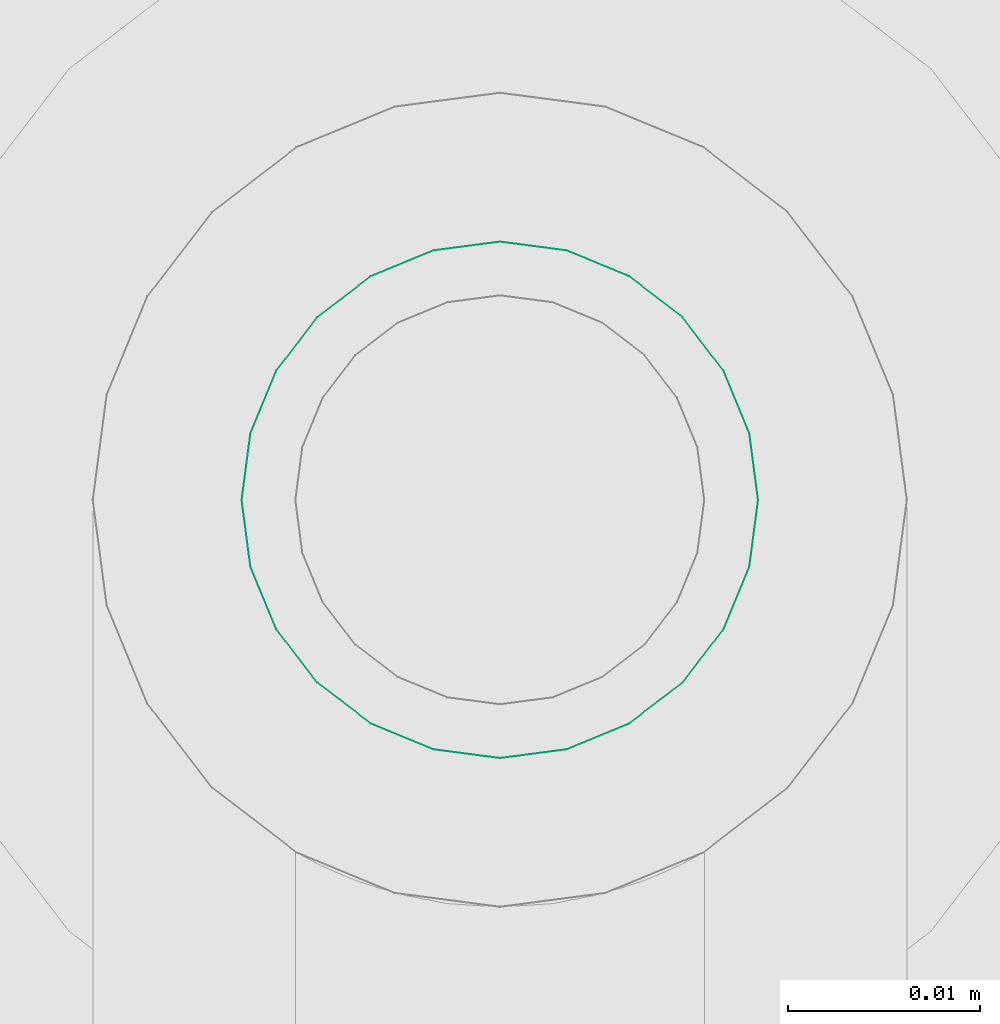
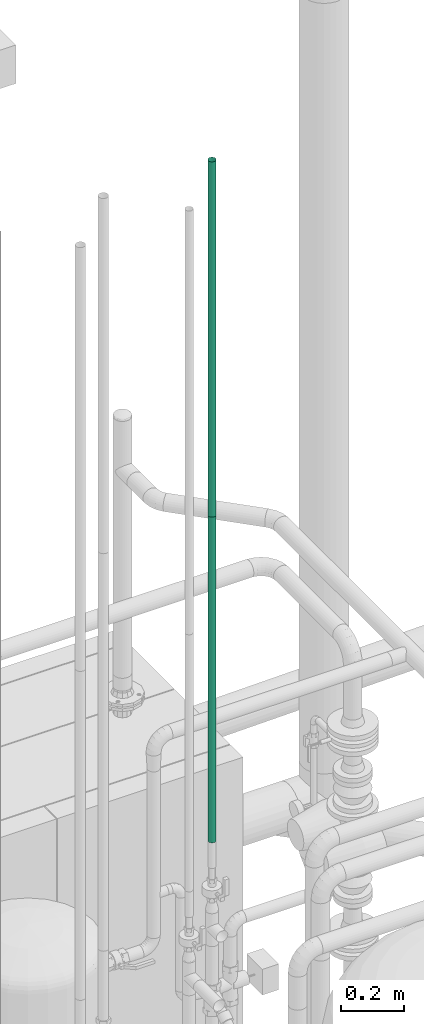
# One storey, part 211 of 374: 2 flow segments.
"""IFC2X3 building model written with IfcOpenShell, lengths in metres."""

from ifc_helpers import new_model, si_unit, direction, origin, place, context, subcontext, project, spatial, open_shell, surface_model, source, transform, mapped, element, save


model = new_model("IFC2X3")

# Units and contexts
model_context = context("Model", 3, precision=1e-05, world=origin(), true_north=direction((-0.4480736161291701, 0.8939966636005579)))
body_context = subcontext(model_context, "Body", "Model", "MODEL_VIEW")
ifc_project = project(units=[si_unit("LENGTHUNIT", "METRE"), si_unit("AREAUNIT", "SQUARE_METRE"), si_unit("VOLUMEUNIT", "CUBIC_METRE"), si_unit("PLANEANGLEUNIT", "RADIAN"), si_unit("THERMODYNAMICTEMPERATUREUNIT", "KELVIN"), si_unit("MASSUNIT", "GRAM", prefix="KILO"), si_unit("TIMEUNIT", "SECOND")], contexts=[model_context])

# Site, building, storey
site_placement = place(None, origin())
site = spatial("IfcSite", under=ifc_project, at=site_placement, Name="Site 1", CompositionType="ELEMENT")
building_placement = place(site_placement, origin())
building = spatial("IfcBuilding", under=site, at=building_placement, Name="Undefined", CompositionType="ELEMENT")
storey_placement = place(building_placement, origin())
storey = spatial("IfcBuildingStorey", under=building, at=storey_placement, Name="Rez de chauss\x8ee", CompositionType="ELEMENT", Elevation=0.0)

# Flow segments
shared_shape_1 = source(origin(), body_context, "Body", "SurfaceModel", [
    surface_model("IfcFaceBasedSurfaceModel", [(0.0, 0.0035111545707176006, 0.0), (0.0, 0.0, 0.0), (1.2679084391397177, -8.8817842e-16, 0.0), (1.2679084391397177, 0.0035111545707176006, 0.0), (0.0, -0.003391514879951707, -0.0009087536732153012), (1.2679084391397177, -0.0033915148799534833, -0.0009087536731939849), (0.0, -0.006432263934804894, -0.0026643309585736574), (1.2679084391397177, -0.006432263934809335, -0.002664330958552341), (0.0, -0.00891502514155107, -0.005147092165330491), (1.2679084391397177, -0.008915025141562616, -0.005147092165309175), (0.0, -0.010670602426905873, -0.008187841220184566), (1.2679084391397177, -0.01067060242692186, -0.00818784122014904), (0.0, -0.011579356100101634, -0.01157935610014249), (1.2679084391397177, -0.011579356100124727, -0.011579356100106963), (0.0, -0.011579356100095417, -0.015090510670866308), (1.2679084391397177, -0.011579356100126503, -0.015090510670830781), (0.0, -0.010670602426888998, -0.018482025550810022), (1.2679084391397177, -0.010670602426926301, -0.018482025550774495), (0.0, -0.008915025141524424, -0.021522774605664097), (1.2679084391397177, -0.008915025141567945, -0.02152277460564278), (0.0, -0.006432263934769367, -0.02400553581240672), (1.2679084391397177, -0.006432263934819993, -0.024005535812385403), (0.0, -0.0033915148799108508, -0.025761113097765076), (1.2679084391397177, -0.0033915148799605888, -0.025761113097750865), (0.0, 4.2632564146e-14, -0.026669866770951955), (1.2679084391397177, -1.1546319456e-14, -0.026669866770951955), (0.0, 0.0035111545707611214, -0.026669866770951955), (1.2679084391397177, 0.0035111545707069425, -0.026669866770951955), (0.0, 0.006902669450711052, -0.02576111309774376), (1.2679084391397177, 0.006902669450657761, -0.025761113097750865), (0.0, 0.00994341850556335, -0.024005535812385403), (1.2679084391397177, 0.009943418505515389, -0.024005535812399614), (0.0, 0.012426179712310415, -0.02152277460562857), (1.2679084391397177, 0.012426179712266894, -0.021522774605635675), (0.0, 0.014181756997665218, -0.018482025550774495), (1.2679084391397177, 0.014181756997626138, -0.01848202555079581), (0.0, 0.015090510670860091, -0.01509051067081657), (1.2679084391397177, 0.015090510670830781, -0.015090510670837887), (0.0, 0.015090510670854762, -0.011579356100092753), (1.2679084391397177, 0.015090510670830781, -0.011579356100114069), (0.0, 0.014181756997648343, -0.00818784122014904), (1.2679084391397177, 0.014181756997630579, -0.008187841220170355), (0.0, 0.012426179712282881, -0.005147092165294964), (1.2679084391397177, 0.012426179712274, -0.005147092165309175), (0.0, 0.009943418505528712, -0.002664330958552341), (1.2679084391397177, 0.00994341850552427, -0.0026643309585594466), (0.0, 0.006902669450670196, -0.0009087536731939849), (1.2679084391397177, 0.006902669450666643, -0.0009087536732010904)], [open_shell([[[0, 1, 2, 3]], [[1, 4, 5, 2]], [[4, 6, 7, 5]], [[6, 8, 9, 7]], [[8, 10, 11, 9]], [[10, 12, 13, 11]], [[12, 14, 15, 13]], [[14, 16, 17, 15]], [[16, 18, 19, 17]], [[18, 20, 21, 19]], [[20, 22, 23, 21]], [[22, 24, 25, 23]], [[24, 26, 27, 25]], [[26, 28, 29, 27]], [[28, 30, 31, 29]], [[30, 32, 33, 31]], [[32, 34, 35, 33]], [[34, 36, 37, 35]], [[36, 38, 39, 37]], [[38, 40, 41, 39]], [[40, 42, 43, 41]], [[42, 44, 45, 43]], [[44, 46, 47, 45]], [[46, 0, 3, 47]]])]),
])
flow_segment_1_placement = place(storey_placement, origin())
element("IfcFlowSegment", 1, at=flow_segment_1_placement, inside=storey, Name="Tube acier d'après DIN 2448", ObjectType="Tube acier d'après DIN 2448", context=body_context, shape_type="MappedRepresentation", body=[
    mapped(shared_shape_1, transform((53.87055371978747, 10.921518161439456, 2.3491915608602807), x_axis=(0.0, 0.0, 1.0), y_axis=(0.13052619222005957, -0.9914448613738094, 0.0), z_axis=(0.9914448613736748, 0.13052619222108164, 0.0))),
])
shared_shape_2 = source(origin(), body_context, "Body", "SurfaceModel", [
    surface_model("IfcFaceBasedSurfaceModel", [(0.0, 0.0035111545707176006, 0.0), (0.0, 0.0, 0.0), (1.3829000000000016, -8.8817842e-16, 0.0), (1.3829000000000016, 0.0035111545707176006, 0.0), (0.0, -0.003391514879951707, -0.0009087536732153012), (1.3829000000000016, -0.0033915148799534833, -0.0009087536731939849), (0.0, -0.006432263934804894, -0.0026643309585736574), (1.3829000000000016, -0.006432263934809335, -0.002664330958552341), (0.0, -0.00891502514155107, -0.005147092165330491), (1.3829000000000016, -0.008915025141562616, -0.005147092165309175), (0.0, -0.010670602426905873, -0.008187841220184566), (1.3829000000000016, -0.01067060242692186, -0.00818784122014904), (0.0, -0.011579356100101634, -0.01157935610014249), (1.3829000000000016, -0.011579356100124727, -0.011579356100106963), (0.0, -0.011579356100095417, -0.015090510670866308), (1.3829000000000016, -0.011579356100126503, -0.015090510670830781), (0.0, -0.010670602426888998, -0.018482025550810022), (1.3829000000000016, -0.010670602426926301, -0.018482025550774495), (0.0, -0.008915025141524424, -0.021522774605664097), (1.3829000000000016, -0.008915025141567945, -0.02152277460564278), (0.0, -0.006432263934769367, -0.02400553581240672), (1.3829000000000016, -0.006432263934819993, -0.024005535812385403), (0.0, -0.0033915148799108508, -0.025761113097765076), (1.3829000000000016, -0.0033915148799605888, -0.025761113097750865), (0.0, 4.2632564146e-14, -0.026669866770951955), (1.3829000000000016, -1.1546319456e-14, -0.026669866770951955), (0.0, 0.0035111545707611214, -0.026669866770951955), (1.3829000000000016, 0.0035111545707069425, -0.026669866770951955), (0.0, 0.006902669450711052, -0.02576111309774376), (1.3829000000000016, 0.006902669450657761, -0.025761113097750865), (0.0, 0.00994341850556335, -0.024005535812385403), (1.3829000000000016, 0.009943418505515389, -0.024005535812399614), (0.0, 0.012426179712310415, -0.02152277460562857), (1.3829000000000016, 0.012426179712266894, -0.021522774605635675), (0.0, 0.014181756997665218, -0.018482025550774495), (1.3829000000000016, 0.014181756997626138, -0.01848202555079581), (0.0, 0.015090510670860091, -0.01509051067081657), (1.3829000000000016, 0.015090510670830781, -0.015090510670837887), (0.0, 0.015090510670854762, -0.011579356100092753), (1.3829000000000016, 0.015090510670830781, -0.011579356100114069), (0.0, 0.014181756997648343, -0.00818784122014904), (1.3829000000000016, 0.014181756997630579, -0.008187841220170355), (0.0, 0.012426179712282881, -0.005147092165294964), (1.3829000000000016, 0.012426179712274, -0.005147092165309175), (0.0, 0.009943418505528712, -0.002664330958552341), (1.3829000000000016, 0.00994341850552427, -0.0026643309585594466), (0.0, 0.006902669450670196, -0.0009087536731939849), (1.3829000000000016, 0.006902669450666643, -0.0009087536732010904)], [open_shell([[[0, 1, 2, 3]], [[1, 4, 5, 2]], [[4, 6, 7, 5]], [[6, 8, 9, 7]], [[8, 10, 11, 9]], [[10, 12, 13, 11]], [[12, 14, 15, 13]], [[14, 16, 17, 15]], [[16, 18, 19, 17]], [[18, 20, 21, 19]], [[20, 22, 23, 21]], [[22, 24, 25, 23]], [[24, 26, 27, 25]], [[26, 28, 29, 27]], [[28, 30, 31, 29]], [[30, 32, 33, 31]], [[32, 34, 35, 33]], [[34, 36, 37, 35]], [[36, 38, 39, 37]], [[38, 40, 41, 39]], [[40, 42, 43, 41]], [[42, 44, 45, 43]], [[44, 46, 47, 45]], [[46, 0, 3, 47]]])]),
])
flow_segment_2_placement = place(storey_placement, origin())
element("IfcFlowSegment", 2, at=flow_segment_2_placement, inside=storey, Name="Tube acier d'après DIN 2448", ObjectType="Tube acier d'après DIN 2448", context=body_context, shape_type="MappedRepresentation", body=[
    mapped(shared_shape_2, transform((53.87055371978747, 10.921518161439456, 3.6170999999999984), x_axis=(0.0, 0.0, 1.0), y_axis=(0.13052619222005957, -0.9914448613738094, 0.0), z_axis=(0.9914448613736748, 0.13052619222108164, 0.0))),
])

save(model, "model.ifc")
